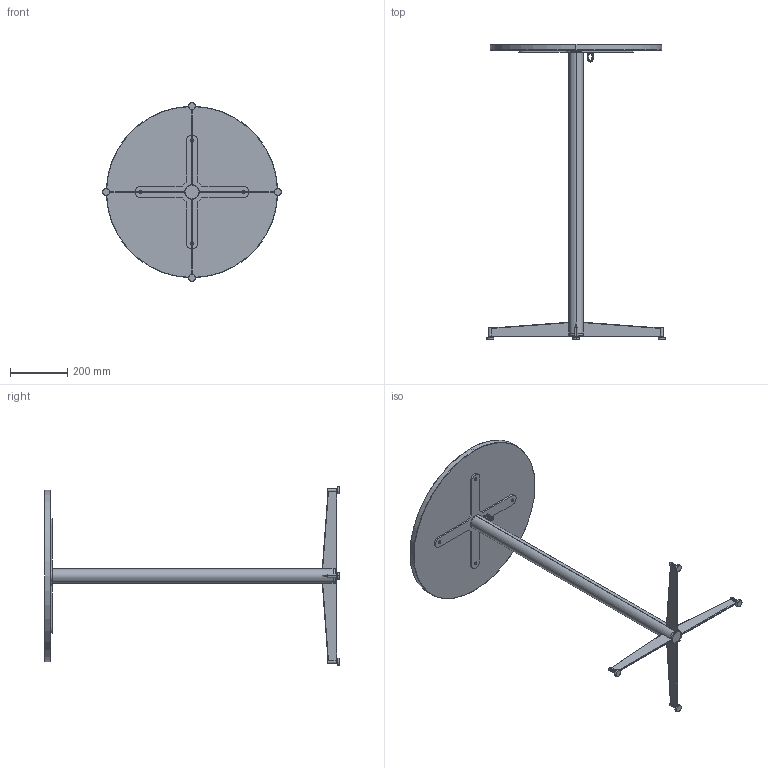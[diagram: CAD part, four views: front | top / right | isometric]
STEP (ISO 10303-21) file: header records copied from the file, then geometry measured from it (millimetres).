
FILE_DESCRIPTION (( 'STEP AP214' ), '1' );
FILE_NAME ('Nook Bar Table Ø60.STEP', '2025-10-03T13:27:55', ( '' ), ( '' ), 'SwSTEP 2.0', 'SolidWorks 2024', '' );
FILE_SCHEMA (( 'AUTOMOTIVE_DESIGN' ));
Length unit declared in the file: millimetre
Products named in the file (10): 085A106_R01 Nook Dining Table X Plate Assembly Steel; socket button head screw_iso_ISO 7380 - M6 x 12 - 12N; 085A206_R01 Nook Table Leg 6mm Steel test; SF257M627S-Ackurat; 085A214_R01 Nook Table inner thread stud; Nook Tabletop Ø60x2; Nook Bar Table Ø60; 085A201_R01 Nook Dining Table X Plate Steel; 085C205_R01 Nook Bar Table Leg Joint Steel; 085A206_R01 Nook Dining Table Wire Attachment
Assembly tree (21 placements, depth 3):
  Nook Bar Table Ø60
    085C205_R01 Nook Bar Table Leg Joint Steel
    085A206_R01 Nook Table Leg 6mm Steel test  x4
    085A214_R01 Nook Table inner thread stud  x4
    085A106_R01 Nook Dining Table X Plate Assembly Steel
      085A201_R01 Nook Dining Table X Plate Steel
      085A206_R01 Nook Dining Table Wire Attachment
    SF257M627S-Ackurat  x4
    socket button head screw_iso_ISO 7380 - M6 x 12 - 12N  x4
    Nook Tabletop Ø60x2
Bounding box: 625 x 1031 x 625 mm (x, y, z)
Volume: 6360531.2 mm3; surface area: 1095947.3 mm2
Topology: 20 solids, 20 shells, 574 faces, 1456 edges, 936 vertices
Faces by surface type: cylinder 342, plane 144, cone 36, torus 32, bspline 12, sphere 8
Entity records: 11175 total; most frequent: CARTESIAN_POINT 5943, ORIENTED_EDGE 1054, DIRECTION 1040, EDGE_CURVE 527, AXIS2_PLACEMENT_3D 406, VERTEX_POINT 339, EDGE_LOOP 234, LINE 228
